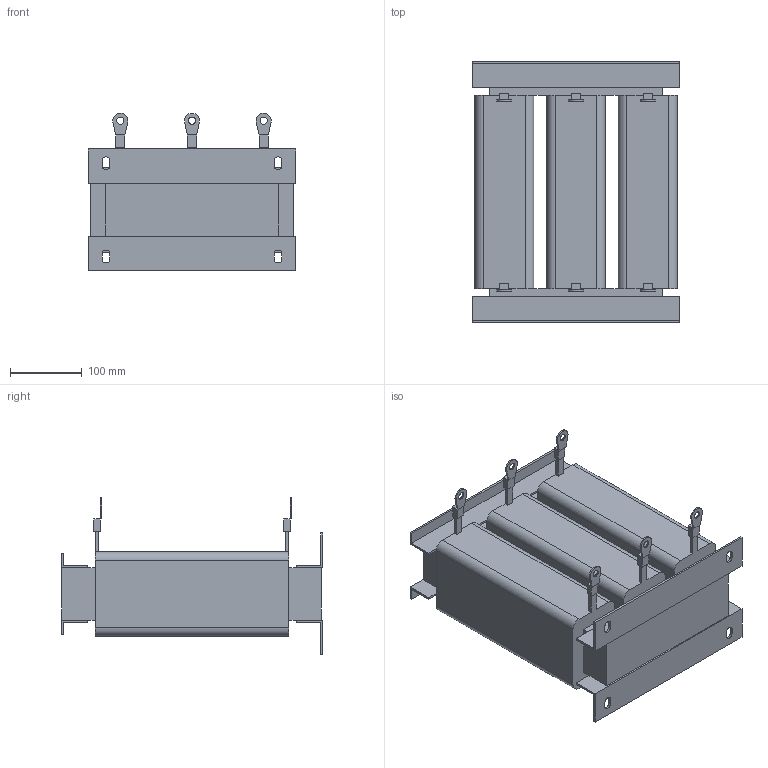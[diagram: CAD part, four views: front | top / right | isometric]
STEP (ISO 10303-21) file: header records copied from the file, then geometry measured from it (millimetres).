
FILE_DESCRIPTION(/* description */ (''),/* implementation_level */ '2;1');
FILE_NAME(/* name */ 'ACO-0086-T6-4.stp',/* time_stamp */ '2025-01-23T16:01:50+04:00',/* author */ ('Александр (огранич)'),/* organization */ (''),/* preprocessor_version */ 'ST-DEVELOPER v19.2',/* originating_system */ 'Autodesk Inventor 2024',/* authorisation */ '');
FILE_SCHEMA (('AUTOMOTIVE_DESIGN { 1 0 10303 214 3 1 1 }'));
Length unit declared in the file: millimetre
Products named in the file (1): ACO-0015-T4-4
Bounding box: 290 x 365 x 219.96 mm (x, y, z)
Volume: 9609809.4 mm3; surface area: 547643.4 mm2
Topology: 7 solids, 7 shells, 190 faces, 498 edges, 324 vertices
Faces by surface type: plane 158, cylinder 32
Full cylindrical faces by diameter (mm): 10 x6
Entity records: 5839 total; most frequent: CARTESIAN_POINT 1013, ORIENTED_EDGE 996, DIRECTION 944, EDGE_CURVE 498, LINE 434, VECTOR 434, VERTEX_POINT 324, AXIS2_PLACEMENT_3D 255
